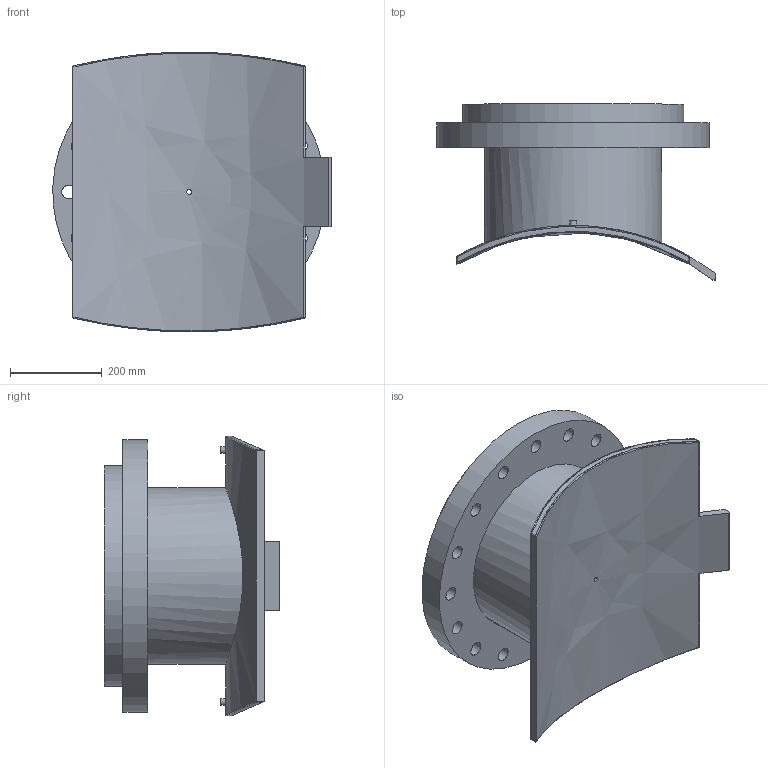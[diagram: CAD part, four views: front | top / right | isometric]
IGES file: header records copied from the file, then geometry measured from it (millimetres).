
Global section: file name: 4959031000400T; native system: Autodesk Inventor 2019; preprocessor: unknown; author: KIM; date: 20240403.210822; units: millimetre
Bounding box: 606.92 x 383.49 x 609.55 mm (x, y, z)
Volume: 24869559 mm3; surface area: 1755671.2 mm2
Topology: 1 solids, 1 shells, 66 faces, 175 edges, 134 vertices
Faces by surface type: bspline 66
